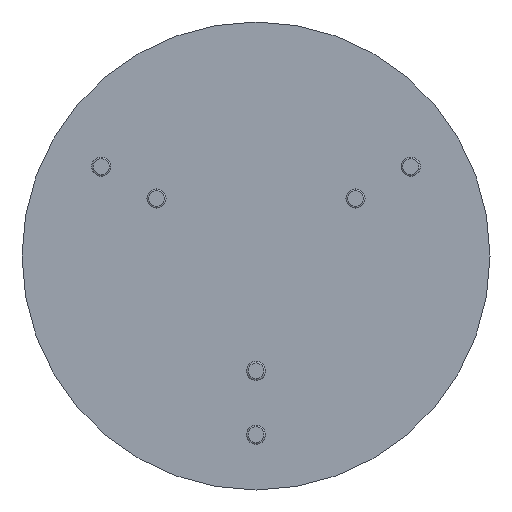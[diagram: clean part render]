
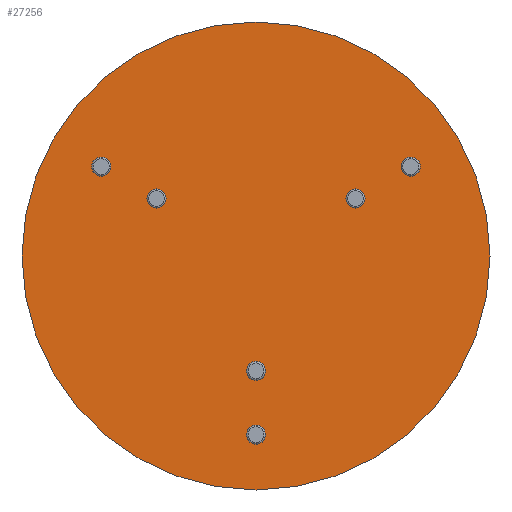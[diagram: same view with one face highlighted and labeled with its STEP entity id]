
A CAD part, front view. The second image highlights one B-rep face of the part: STEP entity #27256.
In plain terms, the highlighted planar face has unit normal (0, -1, 0).
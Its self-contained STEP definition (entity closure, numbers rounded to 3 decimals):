
#185 = DIRECTION ( 'NONE',  ( 0., 0., 1. ) ) ;
#327 = AXIS2_PLACEMENT_3D ( 'NONE', #35919, #30417, #15747 ) ;
#449 = CARTESIAN_POINT ( 'NONE',  ( -9.239, 0., 4.763 ) ) ;
#956 = DIRECTION ( 'NONE',  ( 0., 1., 0. ) ) ;
#966 = EDGE_LOOP ( 'NONE', ( #11328, #30034 ) ) ;
#986 = CIRCLE ( 'NONE', #29357, 0.572 ) ;
#1396 = VERTEX_POINT ( 'NONE', #32865 ) ;
#1776 = CIRCLE ( 'NONE', #26754, 0.572 ) ;
#2989 = DIRECTION ( 'NONE',  ( 0., 1., 0. ) ) ;
#3463 = DIRECTION ( 'NONE',  ( 0., 1., 0. ) ) ;
#3971 = DIRECTION ( 'NONE',  ( 0., 0., 1. ) ) ;
#4059 = AXIS2_PLACEMENT_3D ( 'NONE', #24627, #24249, #3971 ) ;
#4512 = FACE_BOUND ( 'NONE', #34509, .T. ) ;
#5003 = FACE_BOUND ( 'NONE', #966, .T. ) ;
#5294 = ORIENTED_EDGE ( 'NONE', *, *, #11773, .T. ) ;
#6141 = VERTEX_POINT ( 'NONE', #36017 ) ;
#6307 = FACE_BOUND ( 'NONE', #34740, .T. ) ;
#6370 = DIRECTION ( 'NONE',  ( 0., 0., 1. ) ) ;
#7426 = CARTESIAN_POINT ( 'NONE',  ( 5.939, 0., 2.857 ) ) ;
#7671 = AXIS2_PLACEMENT_3D ( 'NONE', #14991, #32228, #185 ) ;
#7738 = AXIS2_PLACEMENT_3D ( 'NONE', #32264, #12200, #29446 ) ;
#7979 = ORIENTED_EDGE ( 'NONE', *, *, #17987, .T. ) ;
#8002 = ORIENTED_EDGE ( 'NONE', *, *, #22548, .T. ) ;
#8207 = VERTEX_POINT ( 'NONE', #7426 ) ;
#8297 = CARTESIAN_POINT ( 'NONE',  ( -5.939, 0., 3.429 ) ) ;
#8676 = CARTESIAN_POINT ( 'NONE',  ( 0., 0., -6.858 ) ) ;
#8689 = EDGE_CURVE ( 'NONE', #15628, #21193, #986, .T. ) ;
#10017 = ORIENTED_EDGE ( 'NONE', *, *, #29407, .T. ) ;
#10406 = EDGE_CURVE ( 'NONE', #1396, #20456, #1776, .T. ) ;
#10477 = EDGE_CURVE ( 'NONE', #8207, #26822, #16392, .T. ) ;
#10502 = AXIS2_PLACEMENT_3D ( 'NONE', #35609, #3463, #12206 ) ;
#10974 = ORIENTED_EDGE ( 'NONE', *, *, #21567, .F. ) ;
#11191 = AXIS2_PLACEMENT_3D ( 'NONE', #8297, #23364, #17746 ) ;
#11328 = ORIENTED_EDGE ( 'NONE', *, *, #8689, .T. ) ;
#11596 = CARTESIAN_POINT ( 'NONE',  ( 0., 0., -13.97 ) ) ;
#11773 = EDGE_CURVE ( 'NONE', #21194, #20429, #15825, .T. ) ;
#12200 = DIRECTION ( 'NONE',  ( 0., 1., 0. ) ) ;
#12206 = DIRECTION ( 'NONE',  ( 0., 0., 1. ) ) ;
#12221 = CARTESIAN_POINT ( 'NONE',  ( 5.939, 0., 3.429 ) ) ;
#13523 = EDGE_LOOP ( 'NONE', ( #5294, #37959 ) ) ;
#13923 = CARTESIAN_POINT ( 'NONE',  ( -9.239, 0., 5.906 ) ) ;
#14053 = DIRECTION ( 'NONE',  ( 0., 1., 0. ) ) ;
#14274 = EDGE_CURVE ( 'NONE', #26208, #26508, #24158, .T. ) ;
#14788 = CARTESIAN_POINT ( 'NONE',  ( 9.239, 0., 5.334 ) ) ;
#14848 = EDGE_LOOP ( 'NONE', ( #36535, #10017 ) ) ;
#14986 = FACE_OUTER_BOUND ( 'NONE', #29454, .T. ) ;
#14991 = CARTESIAN_POINT ( 'NONE',  ( 5.939, 0., 3.429 ) ) ;
#15428 = CARTESIAN_POINT ( 'NONE',  ( 9.239, 0., 5.905 ) ) ;
#15444 = AXIS2_PLACEMENT_3D ( 'NONE', #17064, #31971, #17457 ) ;
#15472 = AXIS2_PLACEMENT_3D ( 'NONE', #33255, #956, #21124 ) ;
#15628 = VERTEX_POINT ( 'NONE', #449 ) ;
#15747 = DIRECTION ( 'NONE',  ( 0., 0., 1. ) ) ;
#15825 = CIRCLE ( 'NONE', #24593, 0.572 ) ;
#16392 = CIRCLE ( 'NONE', #33576, 0.572 ) ;
#17064 = CARTESIAN_POINT ( 'NONE',  ( 0., 0., -10.668 ) ) ;
#17415 = DIRECTION ( 'NONE',  ( 0., 0., 1. ) ) ;
#17457 = DIRECTION ( 'NONE',  ( 0., 0., 1. ) ) ;
#17484 = AXIS2_PLACEMENT_3D ( 'NONE', #19525, #31127, #37303 ) ;
#17583 = CARTESIAN_POINT ( 'NONE',  ( 5.939, 0., 4. ) ) ;
#17746 = DIRECTION ( 'NONE',  ( 0., 0., 1. ) ) ;
#17913 = VERTEX_POINT ( 'NONE', #34411 ) ;
#17987 = EDGE_CURVE ( 'NONE', #33214, #17913, #26647, .T. ) ;
#18120 = CIRCLE ( 'NONE', #15472, 13.97 ) ;
#18205 = DIRECTION ( 'NONE',  ( 0., 0., 1. ) ) ;
#19046 = EDGE_CURVE ( 'NONE', #20429, #21194, #21574, .T. ) ;
#19525 = CARTESIAN_POINT ( 'NONE',  ( 0., 0., -6.858 ) ) ;
#20429 = VERTEX_POINT ( 'NONE', #15428 ) ;
#20446 = DIRECTION ( 'NONE',  ( 0., 1., 0. ) ) ;
#20456 = VERTEX_POINT ( 'NONE', #24382 ) ;
#20598 = EDGE_CURVE ( 'NONE', #20456, #1396, #28229, .T. ) ;
#20924 = FACE_BOUND ( 'NONE', #13523, .T. ) ;
#21124 = DIRECTION ( 'NONE',  ( 0., 0., 1. ) ) ;
#21194 = VERTEX_POINT ( 'NONE', #28347 ) ;
#21193 = VERTEX_POINT ( 'NONE', #13923 ) ;
#21567 = EDGE_CURVE ( 'NONE', #6141, #33185, #29053, .T. ) ;
#21574 = CIRCLE ( 'NONE', #28405, 0.572 ) ;
#22548 = EDGE_CURVE ( 'NONE', #26508, #26208, #22602, .T. ) ;
#22602 = CIRCLE ( 'NONE', #7738, 0.571 ) ;
#22760 = DIRECTION ( 'NONE',  ( 0., 0., 1. ) ) ;
#22779 = FACE_BOUND ( 'NONE', #29069, .T. ) ;
#23146 = ORIENTED_EDGE ( 'NONE', *, *, #14274, .T. ) ;
#23364 = DIRECTION ( 'NONE',  ( 0., 1., 0. ) ) ;
#23957 = CIRCLE ( 'NONE', #327, 0.572 ) ;
#24158 = CIRCLE ( 'NONE', #11191, 0.571 ) ;
#24249 = DIRECTION ( 'NONE',  ( 0., 1., 0. ) ) ;
#24262 = CARTESIAN_POINT ( 'NONE',  ( 0., 0., -10.096 ) ) ;
#24382 = CARTESIAN_POINT ( 'NONE',  ( 0., 0., -6.286 ) ) ;
#24593 = AXIS2_PLACEMENT_3D ( 'NONE', #34886, #29109, #17415 ) ;
#24627 = CARTESIAN_POINT ( 'NONE',  ( 0., 0., 0. ) ) ;
#26059 = DIRECTION ( 'NONE',  ( 0., 1., 0. ) ) ;
#26208 = VERTEX_POINT ( 'NONE', #36678 ) ;
#26480 = EDGE_CURVE ( 'NONE', #17913, #33214, #26483, .T. ) ;
#26483 = CIRCLE ( 'NONE', #10502, 0.571 ) ;
#26508 = VERTEX_POINT ( 'NONE', #33035 ) ;
#26647 = CIRCLE ( 'NONE', #15444, 0.571 ) ;
#26754 = AXIS2_PLACEMENT_3D ( 'NONE', #8676, #14053, #22760 ) ;
#26822 = VERTEX_POINT ( 'NONE', #17583 ) ;
#26889 = ORIENTED_EDGE ( 'NONE', *, *, #26480, .T. ) ;
#27256 = ADVANCED_FACE ( 'NONE', ( #14986, #6307, #4512, #30529, #20924, #5003, #22779 ), #34864, .F. ) ;
#28097 = ORIENTED_EDGE ( 'NONE', *, *, #29428, .F. ) ;
#28229 = CIRCLE ( 'NONE', #17484, 0.572 ) ;
#28347 = CARTESIAN_POINT ( 'NONE',  ( 9.239, 0., 4.762 ) ) ;
#28405 = AXIS2_PLACEMENT_3D ( 'NONE', #14788, #2989, #35250 ) ;
#28471 = ORIENTED_EDGE ( 'NONE', *, *, #20598, .T. ) ;
#29053 = CIRCLE ( 'NONE', #4059, 13.97 ) ;
#29069 = EDGE_LOOP ( 'NONE', ( #8002, #23146 ) ) ;
#29109 = DIRECTION ( 'NONE',  ( 0., 1., 0. ) ) ;
#29120 = ORIENTED_EDGE ( 'NONE', *, *, #10406, .T. ) ;
#29357 = AXIS2_PLACEMENT_3D ( 'NONE', #29935, #32495, #18205 ) ;
#29407 = EDGE_CURVE ( 'NONE', #26822, #8207, #37812, .T. ) ;
#29428 = EDGE_CURVE ( 'NONE', #33185, #6141, #18120, .T. ) ;
#29446 = DIRECTION ( 'NONE',  ( 0., 0., 1. ) ) ;
#29454 = EDGE_LOOP ( 'NONE', ( #28097, #10974 ) ) ;
#29935 = CARTESIAN_POINT ( 'NONE',  ( -9.239, 0., 5.334 ) ) ;
#30034 = ORIENTED_EDGE ( 'NONE', *, *, #31108, .T. ) ;
#30417 = DIRECTION ( 'NONE',  ( 0., 1., 0. ) ) ;
#30529 = FACE_BOUND ( 'NONE', #14848, .T. ) ;
#31108 = EDGE_CURVE ( 'NONE', #21193, #15628, #23957, .T. ) ;
#31127 = DIRECTION ( 'NONE',  ( 0., 1., 0. ) ) ;
#31971 = DIRECTION ( 'NONE',  ( 0., 1., 0. ) ) ;
#32160 = CARTESIAN_POINT ( 'NONE',  ( 0., 0., 0. ) ) ;
#32228 = DIRECTION ( 'NONE',  ( 0., 1., 0. ) ) ;
#32264 = CARTESIAN_POINT ( 'NONE',  ( -5.939, 0., 3.429 ) ) ;
#32284 = DIRECTION ( 'NONE',  ( 0., 0., 1. ) ) ;
#32495 = DIRECTION ( 'NONE',  ( 0., 1., 0. ) ) ;
#32865 = CARTESIAN_POINT ( 'NONE',  ( 0., 0., -7.429 ) ) ;
#33035 = CARTESIAN_POINT ( 'NONE',  ( -5.939, 0., 2.858 ) ) ;
#33185 = VERTEX_POINT ( 'NONE', #11596 ) ;
#33214 = VERTEX_POINT ( 'NONE', #24262 ) ;
#33255 = CARTESIAN_POINT ( 'NONE',  ( 0., 0., 0. ) ) ;
#33576 = AXIS2_PLACEMENT_3D ( 'NONE', #12221, #20446, #6370 ) ;
#34411 = CARTESIAN_POINT ( 'NONE',  ( 0., 0., -11.239 ) ) ;
#34509 = EDGE_LOOP ( 'NONE', ( #29120, #28471 ) ) ;
#34740 = EDGE_LOOP ( 'NONE', ( #26889, #7979 ) ) ;
#34864 = PLANE ( 'NONE',  #37735 ) ;
#34886 = CARTESIAN_POINT ( 'NONE',  ( 9.239, 0., 5.334 ) ) ;
#35250 = DIRECTION ( 'NONE',  ( 0., 0., 1. ) ) ;
#35609 = CARTESIAN_POINT ( 'NONE',  ( 0., 0., -10.668 ) ) ;
#35919 = CARTESIAN_POINT ( 'NONE',  ( -9.239, 0., 5.334 ) ) ;
#36017 = CARTESIAN_POINT ( 'NONE',  ( 0., 0., 13.97 ) ) ;
#36535 = ORIENTED_EDGE ( 'NONE', *, *, #10477, .T. ) ;
#36678 = CARTESIAN_POINT ( 'NONE',  ( -5.939, 0., 4.001 ) ) ;
#37303 = DIRECTION ( 'NONE',  ( 0., 0., 1. ) ) ;
#37735 = AXIS2_PLACEMENT_3D ( 'NONE', #32160, #26059, #32284 ) ;
#37812 = CIRCLE ( 'NONE', #7671, 0.572 ) ;
#37959 = ORIENTED_EDGE ( 'NONE', *, *, #19046, .T. ) ;
